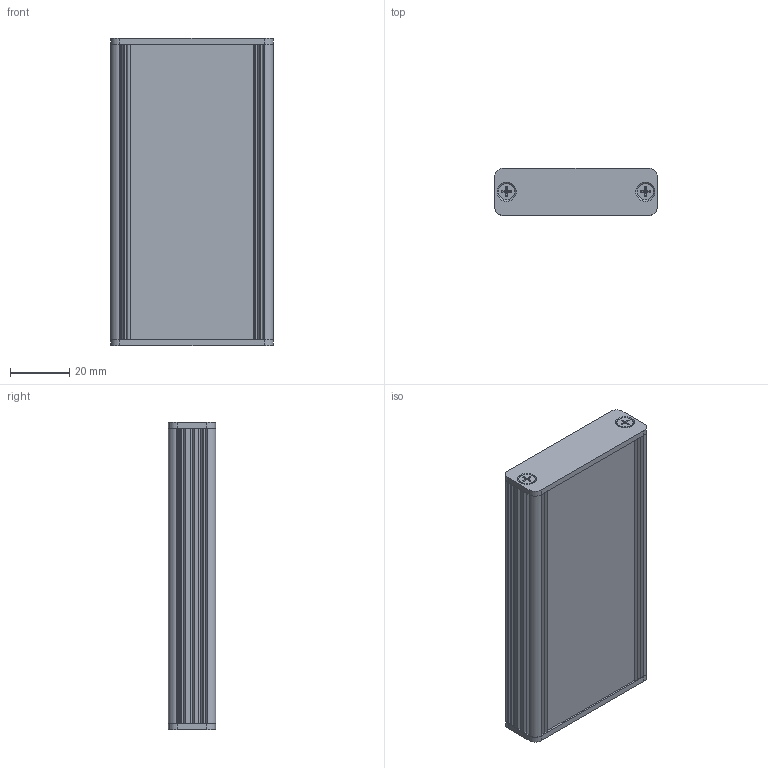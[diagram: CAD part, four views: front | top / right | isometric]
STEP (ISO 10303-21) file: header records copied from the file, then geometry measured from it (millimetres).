
FILE_DESCRIPTION((''),'2;1');
FILE_NAME('C:\Dokumente und Einstellungen\Lochen\Desktop\AKG\AKG_55_16_100.stp','2015-01-15T13:39:24',('Lochen'),(''),'Autodesk Inventor 2012','Autodesk Inventor 2012','');
FILE_SCHEMA(('AUTOMOTIVE_DESIGN { 1 0 10303 214 1 1 1 1 }'));
Length unit declared in the file: millimetre
Products named in the file (4): 001037228; 001033860; L0015SGD000004A; DIN EN ISO 7046-1 H M3 x 10 - 4.8 - H
Assembly tree (8 placements, depth 2):
  001037228
    001033860  x2
    L0015SGD000004A  x2
    DIN EN ISO 7046-1 H M3 x 10 - 4.8 - H  x4
Bounding box: 55 x 16 x 104 mm (x, y, z)
Volume: 27271.4 mm3; surface area: 36810.3 mm2
Topology: 8 solids, 8 shells, 332 faces, 920 edges, 604 vertices
Faces by surface type: plane 134, cylinder 126, cone 52, torus 20
Full cylindrical faces by diameter (mm): 2.693 x4, 3 x4, 3.4 x4, 5.5 x4
Entity records: 4594 total; most frequent: CARTESIAN_POINT 890, DIRECTION 784, ORIENTED_EDGE 736, EDGE_CURVE 368, AXIS2_PLACEMENT_3D 288, VERTEX_POINT 250, VECTOR 208, LINE 208
